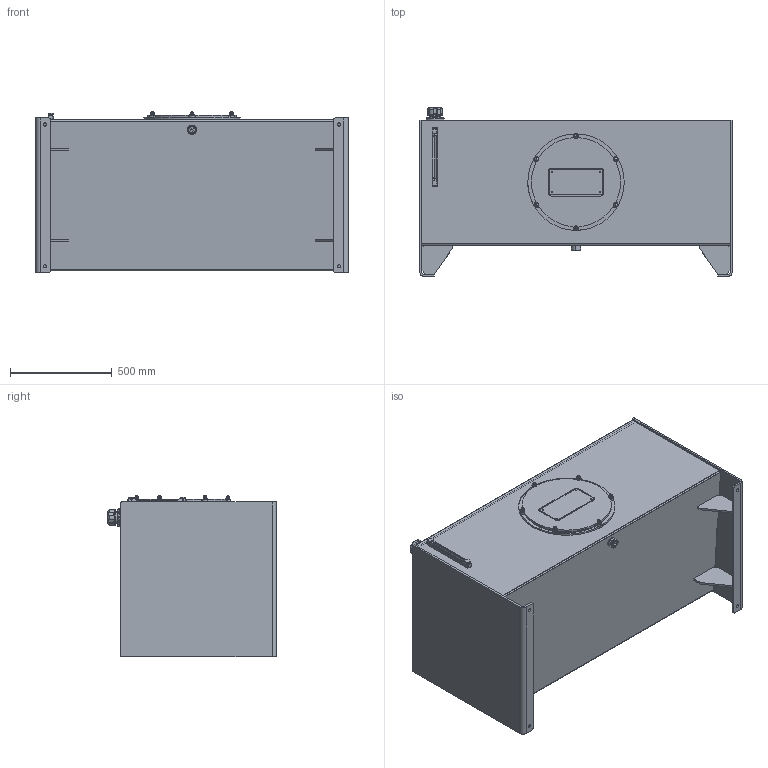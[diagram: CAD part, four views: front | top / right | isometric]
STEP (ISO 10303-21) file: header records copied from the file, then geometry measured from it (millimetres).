
FILE_DESCRIPTION (( 'STEP AP214' ), '1' );
FILE_NAME ('RDIN150-AFA.STEP', '2021-10-18T13:46:17', ( 'Windows User' ), ( '' ), 'SwSTEP 2.0', 'SolidWorks 2020', '' );
FILE_SCHEMA (( 'AUTOMOTIVE_DESIGN' ));
Length unit declared in the file: inch
Products named in the file (24): FB-S-W; RDIN150-AFA-GUSSET2; RDIN150-AFA; REC-M475C; RHJ-PLUG-200; BHS8100-15350; WFZM010; RDIN150-AFA-REND; RDIN150-AFA-BODY_RJIC020-BODY; 8162-010-2_4534K46; QSTSBUR00080008; RDIN150-AFA-TOP; RHJ-PLUG-016; PLLG-10T; NHP50016-20H__.50-20_NUT_95505A615; FB-C-H_FB-H008W; Weld Riser; RDIN150-AFA-LEND; RDIN150-AFA-GUSSET1; S16; FB-H008W; NAC100-15; FB-F008_FB-F-008; REC-M475K
Assembly tree (42 placements, depth 3):
  RDIN150-AFA
    RDIN150-AFA-BODY_RJIC020-BODY
    RDIN150-AFA-LEND
    RDIN150-AFA-REND
    RDIN150-AFA-TOP
    Weld Riser
    FB-H008W
      FB-F008_FB-F-008
      FB-S-W
      FB-C-H_FB-H008W
    BHS8100-15350  x6
    PLLG-10T
    REC-M475K
      REC-M475C
      NAC100-15  x6
      WFZM010  x6
    S16
    8162-010-2_4534K46
    RDIN150-AFA-GUSSET1  x2
    RDIN150-AFA-GUSSET2  x2
    QSTSBUR00080008  x4
    NHP50016-20H__.50-20_NUT_95505A615  x2
  RHJ-PLUG-200
  RHJ-PLUG-016
Bounding box: 1536.7 x 831.47 x 795.44 mm (x, y, z)
Volume: 34050000.9 mm3; surface area: 11323810.2 mm2
Topology: 43 solids, 43 shells, 1320 faces, 3079 edges, 1831 vertices
Faces by surface type: plane 435, cylinder 417, cone 226, bspline 100, torus 94, sphere 48
Entity records: 36188 total; most frequent: CARTESIAN_POINT 9990, DIRECTION 5218, ORIENTED_EDGE 4806, EDGE_CURVE 2403, AXIS2_PLACEMENT_3D 2121, VERTEX_POINT 1445, EDGE_LOOP 1156, CIRCLE 1143
